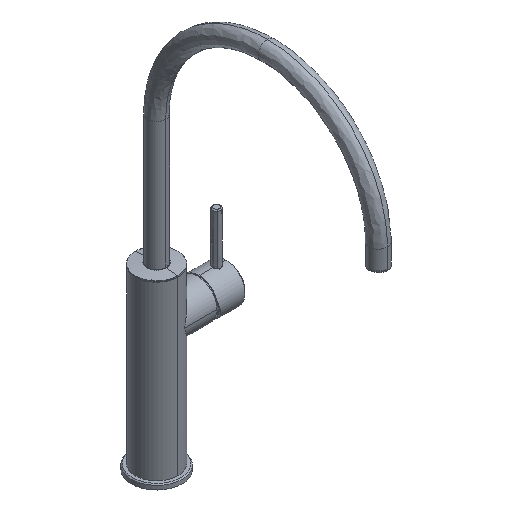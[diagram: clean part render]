
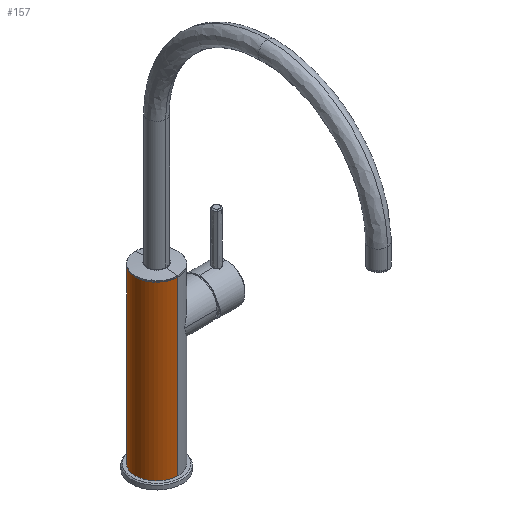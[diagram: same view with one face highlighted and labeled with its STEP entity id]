
A CAD part, isometric view. The second image highlights one B-rep face of the part: STEP entity #157.
In plain terms, the highlighted cylindrical face has radius 21 mm (diameter 42 mm), a partial arc.
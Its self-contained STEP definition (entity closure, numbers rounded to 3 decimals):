
#157=ADVANCED_FACE('',(#580),#7904,.T.);
#580=FACE_OUTER_BOUND('',#826,.T.);
#826=EDGE_LOOP('',(#1263,#1264,#1265,#1266,#1267,#1268));
#1263=ORIENTED_EDGE('',*,*,#3323,.F.);
#1264=ORIENTED_EDGE('',*,*,#3335,.T.);
#1265=ORIENTED_EDGE('',*,*,#3321,.F.);
#1266=ORIENTED_EDGE('',*,*,#3336,.F.);
#1267=ORIENTED_EDGE('',*,*,#3325,.F.);
#1268=ORIENTED_EDGE('',*,*,#3337,.T.);
#3321=EDGE_CURVE('',#6467,#6468,#5066,.T.);
#3323=EDGE_CURVE('',#6469,#6470,#5067,.T.);
#3325=EDGE_CURVE('',#6471,#6472,#5069,.T.);
#3335=EDGE_CURVE('',#6469,#6468,#4898,.T.);
#3336=EDGE_CURVE('',#6472,#6467,#4899,.T.);
#3337=EDGE_CURVE('',#6471,#6470,#5076,.T.);
#4898=(
BOUNDED_CURVE()
B_SPLINE_CURVE(2,(#8611,#8612,#8613,#8614,#8615),.UNSPECIFIED.,.F.,.F.)
B_SPLINE_CURVE_WITH_KNOTS((3,2,3),(0.,42.,84.),.UNSPECIFIED.)
CURVE()
GEOMETRIC_REPRESENTATION_ITEM()
RATIONAL_B_SPLINE_CURVE((1.,0.707,1.,0.707,1.))
REPRESENTATION_ITEM('')
);
#4899=(
BOUNDED_CURVE()
B_SPLINE_CURVE(2,(#8616,#8617,#8618,#8619,#8620),.UNSPECIFIED.,.F.,.F.)
B_SPLINE_CURVE_WITH_KNOTS((3,2,3),(-84.,-42.,0.),.UNSPECIFIED.)
CURVE()
GEOMETRIC_REPRESENTATION_ITEM()
RATIONAL_B_SPLINE_CURVE((1.,0.707,1.,0.707,1.))
REPRESENTATION_ITEM('')
);
#5066=B_SPLINE_CURVE_WITH_KNOTS('',1,(#8347,#8348),.UNSPECIFIED.,.F.,.F.,
(2,2),(0.,170.),.UNSPECIFIED.);
#5067=B_SPLINE_CURVE_WITH_KNOTS('',1,(#8354,#8355),.UNSPECIFIED.,.F.,.F.,
(2,2),(0.,159.6),.UNSPECIFIED.);
#5069=B_SPLINE_CURVE_WITH_KNOTS('',1,(#8390,#8391),.UNSPECIFIED.,.F.,.F.,
(2,2),(0.,5.4),.UNSPECIFIED.);
#5076=B_SPLINE_CURVE_WITH_KNOTS('',3,(#8621,#8622,#8623,#8624,#8625,#8626,
#8627,#8628,#8629,#8630,#8631,#8632,#8633,#8634,#8635,#8636,#8637,#8638,
#8639,#8640,#8641,#8642,#8643,#8644,#8645,#8646,#8647,#8648,#8649,#8650,
#8651,#8652),.UNSPECIFIED.,.F.,.F.,(4,2,2,2,2,2,2,2,2,2,2,2,2,2,2,4),(0.,
0.985,1.477,1.97,2.462,2.954,
3.447,3.939,4.432,4.924,5.416,
5.909,6.401,6.894,7.386,7.878),
 .UNSPECIFIED.);
#6467=VERTEX_POINT('',#8335);
#6468=VERTEX_POINT('',#8336);
#6469=VERTEX_POINT('',#8337);
#6470=VERTEX_POINT('',#8338);
#6471=VERTEX_POINT('',#8339);
#6472=VERTEX_POINT('',#8340);
#7904=CYLINDRICAL_SURFACE('',#8023,21.);
#8023=AXIS2_PLACEMENT_3D('',#8334,#8178,$);
#8178=DIRECTION('',(0.,0.,1.));
#8334=CARTESIAN_POINT('',(0.,0.,90.));
#8335=CARTESIAN_POINT('',(0.,-21.,175.));
#8336=CARTESIAN_POINT('',(0.,-21.,5.));
#8337=CARTESIAN_POINT('',(0.,21.,5.));
#8338=CARTESIAN_POINT('',(0.,21.,164.6));
#8339=CARTESIAN_POINT('',(0.,21.,169.6));
#8340=CARTESIAN_POINT('',(0.,21.,175.));
#8347=CARTESIAN_POINT('',(0.,-21.,175.));
#8348=CARTESIAN_POINT('',(0.,-21.,5.));
#8354=CARTESIAN_POINT('',(0.,21.,5.));
#8355=CARTESIAN_POINT('',(0.,21.,164.6));
#8390=CARTESIAN_POINT('',(0.,21.,169.6));
#8391=CARTESIAN_POINT('',(0.,21.,175.));
#8611=CARTESIAN_POINT('',(0.,21.,5.));
#8612=CARTESIAN_POINT('',(-21.,21.,5.));
#8613=CARTESIAN_POINT('',(-21.,0.,5.));
#8614=CARTESIAN_POINT('',(-21.,-21.,5.));
#8615=CARTESIAN_POINT('',(0.,-21.,5.));
#8616=CARTESIAN_POINT('',(0.,21.,175.));
#8617=CARTESIAN_POINT('',(-21.,21.,175.));
#8618=CARTESIAN_POINT('',(-21.,0.,175.));
#8619=CARTESIAN_POINT('',(-21.,-21.,175.));
#8620=CARTESIAN_POINT('',(0.,-21.,175.));
#8621=CARTESIAN_POINT('',(0.,21.,169.6));
#8622=CARTESIAN_POINT('',(-0.331,21.,169.6));
#8623=CARTESIAN_POINT('',(-0.659,20.992,169.533));
#8624=CARTESIAN_POINT('',(-1.11,20.971,169.346));
#8625=CARTESIAN_POINT('',(-1.255,20.963,169.268));
#8626=CARTESIAN_POINT('',(-1.528,20.945,169.085));
#8627=CARTESIAN_POINT('',(-1.654,20.935,168.982));
#8628=CARTESIAN_POINT('',(-1.884,20.916,168.751));
#8629=CARTESIAN_POINT('',(-1.989,20.906,168.623));
#8630=CARTESIAN_POINT('',(-2.171,20.888,168.351));
#8631=CARTESIAN_POINT('',(-2.247,20.879,168.207));
#8632=CARTESIAN_POINT('',(-2.373,20.866,167.905));
#8633=CARTESIAN_POINT('',(-2.421,20.86,167.746));
#8634=CARTESIAN_POINT('',(-2.484,20.853,167.426));
#8635=CARTESIAN_POINT('',(-2.5,20.851,167.263));
#8636=CARTESIAN_POINT('',(-2.5,20.851,166.933));
#8637=CARTESIAN_POINT('',(-2.484,20.853,166.77));
#8638=CARTESIAN_POINT('',(-2.42,20.86,166.451));
#8639=CARTESIAN_POINT('',(-2.372,20.866,166.292));
#8640=CARTESIAN_POINT('',(-2.246,20.88,165.989));
#8641=CARTESIAN_POINT('',(-2.169,20.888,165.846));
#8642=CARTESIAN_POINT('',(-1.987,20.906,165.575));
#8643=CARTESIAN_POINT('',(-1.882,20.916,165.446));
#8644=CARTESIAN_POINT('',(-1.651,20.935,165.216));
#8645=CARTESIAN_POINT('',(-1.525,20.945,165.113));
#8646=CARTESIAN_POINT('',(-1.252,20.963,164.93));
#8647=CARTESIAN_POINT('',(-1.107,20.971,164.852));
#8648=CARTESIAN_POINT('',(-0.806,20.985,164.728));
#8649=CARTESIAN_POINT('',(-0.648,20.991,164.68));
#8650=CARTESIAN_POINT('',(-0.325,20.998,164.616));
#8651=CARTESIAN_POINT('',(-0.163,21.,164.6));
#8652=CARTESIAN_POINT('',(0.,21.,164.6));
